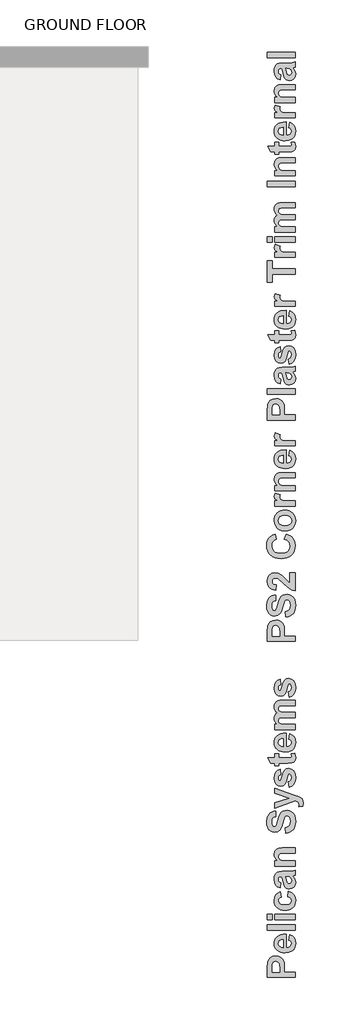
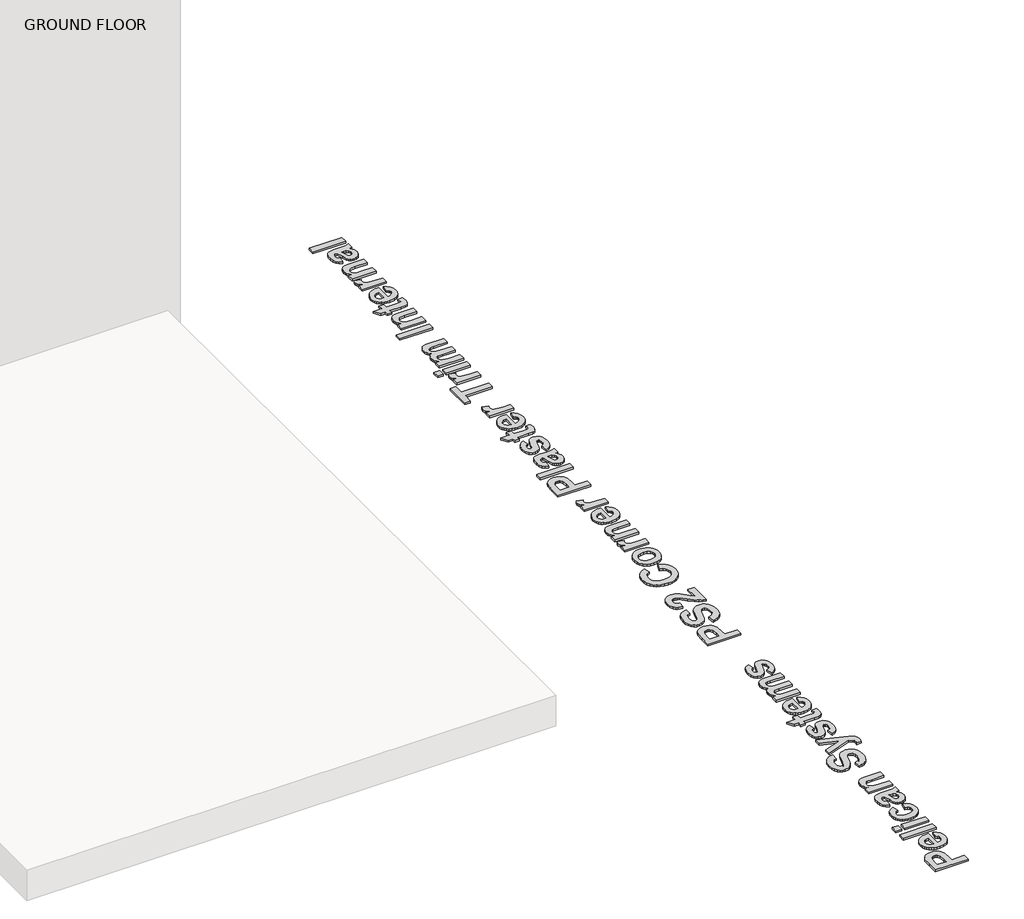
# One storey, part 2 of 3: 1 proxy.
"""IFC4 building model written with IfcOpenShell, lengths in millimetres."""

from ifc_helpers import new_model, si_unit, origin, origin_with_axes, place, context, project, spatial, polyline, outline, extrude, element, save

model = new_model("IFC4")

# Units and contexts
model_context = context("Model", 3, world=origin())
ifc_project = project(units=[si_unit("LENGTHUNIT", "METRE", prefix="MILLI")], contexts=[model_context])

# Site, building, storey
site = spatial("IfcSite", under=ifc_project)
building = spatial("IfcBuilding", under=site)
storey = spatial("IfcBuildingStorey", under=building, Name="GROUND FLOOR", Elevation=0.0)

# Proxy
placement = place(None, origin())
element("IfcBuildingElementProxy", 1, Name="600mm Arial", ObjectType="600mm Arial", at=placement, inside=storey, context=model_context, shape_type="SweptSolid", body=[
    extrude(outline(polyline([(118395.3971369, 46349.49227), (118140.3322869, 46349.49227), (118140.3322869, 46431.6671808), (118144.1278948, 46492.5866874), (118153.1820011, 46512.6322415), (118168.9574964, 46529.1194133), (118190.8692244, 46540.1503987), (118218.332029, 46543.8273938), (118239.8167511, 46541.6686418), (118257.5849406, 46535.1923859), (118271.7868401, 46525.3870655), (118282.5726925, 46513.2411203), (118294.6237475, 46486.1974141), (118298.229575, 46432.1100017), (118298.229575, 46398.076051), (118395.3971369, 46398.076051), (118395.3971369, 46349.49227)]), holes=[polyline([(118184.8674195, 46398.076051), (118253.6944425, 46398.076051), (118253.6944425, 46428.2511337), (118249.8988346, 46471.8057342), (118237.9742998, 46489.0124899), (118229.1890491, 46493.6858321), (118219.0911506, 46495.2436129), (118207.0242805, 46493.0532308), (118197.2664052, 46486.4820847), (118190.2761607, 46476.5739666), (118186.5121829, 46464.3726687), (118184.8674195, 46424.7085663), (118184.8674195, 46398.076051)])]), origin_with_axes(), (0.0, 0.0, 1.0), 15.0),
    extrude(outline(polyline([(118338.7160591, 46689.5787367), (118346.813356, 46738.1625176), (118369.4842056, 46726.332873), (118386.0030074, 46709.1893774), (118396.0850909, 46686.9059961), (118399.4457853, 46659.6566945), (118397.4649525, 46637.65403), (118391.5224539, 46618.7115744), (118381.6182895, 46602.8293277), (118367.7524595, 46590.0072898), (118339.0481748, 46576.627772), (118303.6699463, 46572.1679327), (118281.8293859, 46573.6466383), (118262.4876008, 46578.082755), (118245.6445908, 46585.4762829), (118231.300356, 46595.8272219), (118219.8423646, 46608.4397106), (118211.6580851, 46622.6178875), (118206.7475174, 46638.3617528), (118205.1106615, 46655.6713062), (118206.7910088, 46674.9063399), (118211.8320505, 46691.9984367), (118220.2337867, 46706.9475965), (118231.9962174, 46719.7538194), (118247.2300478, 46729.9584693), (118266.0459831, 46737.1029104), (118288.4440234, 46741.1871427), (118314.4241687, 46742.211166), (118314.4241687, 46620.7517137), (118334.8888212, 46623.8672751), (118350.2294031, 46632.2017975), (118359.813313, 46644.490078), (118363.0079496, 46659.4669141), (118361.5687816, 46669.6676103), (118357.2512777, 46678.1286529), (118349.7391371, 46684.7867817), (118338.7160591, 46689.5787367)]), holes=[polyline([(118286.0836298, 46693.6273851), (118266.8762724, 46690.6699739), (118252.9036908, 46682.8099026), (118244.3872956, 46671.3914489), (118241.5484972, 46657.7588906), (118244.5375385, 46643.3672107), (118253.5046621, 46631.6957164), (118267.6591165, 46624.0412405), (118286.0836298, 46621.5740954), (118286.0836298, 46693.6273851)])]), origin_with_axes(), (0.0, 0.0, 1.0), 15.0),
    extrude(outline(polyline([(118395.3971369, 46778.6490018), (118140.3322869, 46778.6490018), (118140.3322869, 46827.2327827), (118395.3971369, 46827.2327827), (118395.3971369, 46778.6490018)])), origin_with_axes(), (0.0, 0.0, 1.0), 15.0),
    extrude(outline(polyline([(118184.8674195, 46875.8165637), (118140.3322869, 46875.8165637), (118140.3322869, 46924.4003446), (118184.8674195, 46924.4003446), (118184.8674195, 46875.8165637)])), origin_with_axes(), (0.0, 0.0, 1.0), 15.0),
    extrude(outline(polyline([(118395.3971369, 46875.8165637), (118209.1593099, 46875.8165637), (118209.1593099, 46924.4003446), (118395.3971369, 46924.4003446), (118395.3971369, 46875.8165637)])), origin_with_axes(), (0.0, 0.0, 1.0), 15.0),
    extrude(outline(polyline([(118261.7917393, 47126.8327652), (118269.8890361, 47078.2489843), (118257.529588, 47074.524544), (118248.665262, 47067.9059528), (118243.3276884, 47058.630436), (118241.5484972, 47046.9352192), (118244.8854692, 47031.5313772), (118254.896385, 47019.6068424), (118272.719927, 47011.9681816), (118299.4947777, 47009.4219613), (118329.1795943, 47012.0709793), (118348.6478998, 47020.0180333), (118359.4179372, 47032.4249266), (118363.0079496, 47048.4534624), (118360.9599029, 47060.5915001), (118354.8157626, 47070.3098378), (118343.6582569, 47077.5610304), (118326.5701139, 47082.2976327), (118334.6674107, 47130.8814136), (118362.8102617, 47120.245804), (118383.0930414, 47102.8888055), (118395.3575993, 47078.6522676), (118399.4457853, 47047.3780401), (118397.8366057, 47028.6115268), (118393.009067, 47011.8495688), (118384.963169, 46997.0921663), (118373.6989118, 46984.3393191), (118359.5919025, 46974.0575709), (118343.0177481, 46966.713465), (118323.9764485, 46962.3070015), (118302.4680038, 46960.8381803), (118280.716403, 46962.2971171), (118261.5149762, 46966.6739274), (118244.8637235, 46973.9686114), (118230.7626448, 46984.1811688), (118219.5399021, 46996.884594), (118211.5236574, 47011.6518809), (118206.7139105, 47028.4830296), (118205.1106615, 47047.3780401), (118208.6136913, 47076.6200359), (118219.1227806, 47099.1880878), (118236.7960799, 47115.7147971), (118261.7917393, 47126.8327652)])), origin_with_axes(), (0.0, 0.0, 1.0), 15.0),
    extrude(outline(polyline([(118265.8403877, 47207.8057335), (118257.7430909, 47163.2706009), (118234.4001024, 47172.9256785), (118218.0157283, 47187.7206417), (118208.3369282, 47209.2844391), (118205.1106615, 47239.2460188), (118207.0638181, 47266.3371701), (118212.9232878, 47285.4891749), (118221.7797062, 47298.4258718), (118232.7237089, 47306.8710993), (118249.7327768, 47311.520719), (118276.7843905, 47313.0705922), (118334.2245898, 47313.0705922), (118370.409385, 47315.6326275), (118395.3971369, 47325.2165374), (118395.3971369, 47276.6327565), (118379.9616648, 47272.078027), (118373.8254321, 47270.3700035), (118393.024882, 47244.3700895), (118397.8405595, 47230.0574847), (118399.4457853, 47214.8276081), (118395.5473797, 47190.0533591), (118383.8521629, 47171.1464873), (118366.2104938, 47159.1665999), (118344.4727311, 47155.1733041), (118329.5749702, 47156.9524953), (118316.3852327, 47162.2900689), (118305.4886751, 47170.8380942), (118297.4704534, 47182.2486404), (118286.0203697, 47219.2558173), (118273.9376845, 47264.4868113), (118268.8136139, 47264.4868113), (118256.1932177, 47262.9764756), (118247.8112503, 47258.4454687), (118243.1141855, 47249.7392931), (118241.5484972, 47235.7034514), (118242.892775, 47225.6292755), (118246.9256084, 47218.0538748), (118265.8403877, 47207.8057335)]), holes=[polyline([(118310.3755203, 47264.4868113), (118317.1127243, 47237.0951743), (118324.7988302, 47212.5502433), (118331.7099996, 47205.9553746), (118340.2975624, 47203.7570851), (118348.9088478, 47205.5204612), (118356.2707456, 47210.8105897), (118361.3236486, 47218.8209039), (118363.0079496, 47228.744837), (118361.0468855, 47240.6535567), (118355.1636933, 47251.9613052), (118340.6138631, 47262.7155276), (118319.1686785, 47264.4868113), (118310.3755203, 47264.4868113)])]), origin_with_axes(), (0.0, 0.0, 1.0), 15.0),
    extrude(outline(polyline([(118395.3971369, 47527.6489581), (118395.3971369, 47479.0651771), (118299.684558, 47479.0651771), (118260.3367563, 47476.0286908), (118246.4827875, 47466.0968502), (118241.5484972, 47449.5859559), (118243.3118734, 47437.8274789), (118248.6020019, 47427.3500197), (118256.810004, 47419.0629424), (118267.3270008, 47413.8756117), (118310.4387804, 47410.2381541), (118395.3971369, 47410.2381541), (118395.3971369, 47361.6543732), (118209.1593099, 47361.6543732), (118209.1593099, 47410.2381541), (118235.9816057, 47410.2381541), (118222.4755676, 47422.5303884), (118212.8283976, 47436.3171433), (118207.0400955, 47451.5984188), (118205.1106615, 47468.3742149), (118210.9938538, 47496.5882335), (118225.9865049, 47515.9458338), (118246.6409378, 47525.0869227), (118279.7576166, 47527.6489581), (118395.3971369, 47527.6489581)])), origin_with_axes(), (0.0, 0.0, 1.0), 15.0),
    extrude(outline(polyline([(118310.3755203, 47661.2543557), (118306.3268718, 47709.8381366), (118328.056727, 47716.9232714), (118343.1442683, 47728.8161761), (118351.9690567, 47745.5959259), (118354.9106528, 47767.3415961), (118352.3090799, 47789.909648), (118344.5043612, 47806.1200567), (118333.2203352, 47815.893747), (118320.1808406, 47819.1516438), (118304.966779, 47813.7429025), (118294.0544063, 47794.7964932), (118283.2369239, 47752.6652456), (118272.0556956, 47716.7018609), (118258.3756922, 47693.3272423), (118235.0801488, 47675.34555), (118207.1982459, 47669.3516525), (118188.4099868, 47672.1034682), (118170.8869304, 47680.3589154), (118156.0049845, 47693.8016933), (118145.1400569, 47712.1155014), (118138.4977431, 47734.9998539), (118136.2836385, 47762.1542653), (118141.803085, 47804.119455), (118148.7023931, 47820.6600025), (118158.3614244, 47834.2391851), (118170.321543, 47844.9004942), (118184.1241129, 47852.687421), (118199.7691342, 47857.5999655), (118217.2566068, 47859.6381279), (118217.2566068, 47811.0543469), (118200.5638396, 47805.6851433), (118189.3272587, 47796.4096265), (118182.945893, 47782.3737849), (118180.8187711, 47762.7236065), (118183.0803208, 47742.0375435), (118189.8649699, 47726.4122911), (118196.665434, 47720.0546479), (118205.4269622, 47717.9354335), (118213.6982244, 47719.8648675), (118220.6726539, 47725.6531695), (118228.8411183, 47742.4566419), (118237.2784384, 47773.2564184), (118246.0557816, 47806.1279642), (118255.2443157, 47829.1467445), (118266.3701913, 47845.2780781), (118280.9595591, 47857.4872834), (118299.194292, 47865.1733894), (118321.2562629, 47867.7354247), (118342.3218866, 47864.7068459), (118361.9957875, 47855.6211096), (118378.5383119, 47840.9922042), (118390.2098061, 47821.3341183), (118397.1367905, 47796.4333491), (118399.4457853, 47766.0763935), (118398.0244093, 47743.3739138), (118393.760281, 47723.470695), (118386.6534006, 47706.3667369), (118376.7037681, 47692.0620397), (118364.0299961, 47680.4577593), (118348.7506975, 47671.4550519), (118330.8658722, 47665.0539173), (118310.3755203, 47661.2543557)])), origin_with_axes(), (0.0, 0.0, 1.0), 15.0),
    extrude(outline(polyline([(118209.1593099, 47887.9786668), (118209.1593099, 47936.5624477), (118340.9934239, 47979.0732561), (118209.1593099, 48021.5840644), (118209.1593099, 48070.1678454), (118387.6161408, 48007.1607544), (118420.7644496, 47995.4576301), (118444.3604787, 47983.9126561), (118457.5818461, 47971.2922599), (118465.4577325, 47953.7375734), (118468.2728083, 47930.2364346), (118465.4893626, 47904.1732604), (118429.4943478, 47900.124612), (118431.8349726, 47919.4189521), (118429.2650298, 47933.1859382), (118421.5552013, 47942.8568308), (118395.3971369, 47954.5283251), (118209.1593099, 47887.9786668)])), origin_with_axes(), (0.0, 0.0, 1.0), 15.0),
    extrude(outline(polyline([(118342.7647076, 48078.2651422), (118334.6674107, 48126.8489231), (118346.9082462, 48131.4748202), (118355.7962946, 48139.279539), (118361.2050359, 48150.5319348), (118363.0079496, 48165.5008634), (118361.284111, 48181.7429022), (118356.1125953, 48193.3985814), (118350.4824436, 48198.1430913), (118343.2075285, 48199.7245946), (118334.0980696, 48196.3718076), (118327.7087963, 48180.4935146), (118315.2781804, 48133.5703121), (118303.9229869, 48107.6811033), (118285.9412945, 48091.6921051), (118262.10804, 48086.362439), (118239.9195489, 48090.9329835), (118221.5582957, 48104.644617), (118209.2225701, 48127.9717905), (118205.1106615, 48161.3889549), (118208.4318184, 48193.2562461), (118218.3952891, 48215.7294078), (118234.8745534, 48230.737874), (118257.7430909, 48240.2110787), (118265.8403877, 48191.6272977), (118255.4499111, 48188.0531003), (118247.8112503, 48182.2647983), (118243.1141855, 48173.9144609), (118241.5484972, 48162.6541575), (118242.87696, 48148.8160038), (118246.8623483, 48139.5642095), (118256.7309288, 48134.94622), (118265.5240871, 48139.5642095), (118279.1250153, 48182.5494689), (118288.9461507, 48213.7762512), (118300.8232404, 48233.8850655), (118316.495938, 48244.702548), (118337.3243363, 48248.3083755), (118361.023163, 48243.0815071), (118381.1319773, 48227.4009021), (118389.1442683, 48215.6918471), (118394.8673333, 48201.4721557), (118399.4457853, 48165.5008634), (118395.6343624, 48132.1864967), (118384.2000937, 48106.6373111), (118366.2184013, 48088.7109714), (118342.7647076, 48078.2651422)])), origin_with_axes(), (0.0, 0.0, 1.0), 15.0),
    extrude(outline(polyline([(118209.1593099, 48381.9137731), (118245.5971457, 48381.9137731), (118245.5971457, 48345.4759374), (118325.4946917, 48345.4759374), (118353.7403404, 48346.5829897), (118360.3826542, 48351.6121702), (118363.0079496, 48361.16445), (118358.3266999, 48383.9380973), (118392.8667317, 48385.9624215), (118397.8010219, 48367.2216076), (118399.4457853, 48346.1717988), (118394.8910559, 48321.6268678), (118383.1246714, 48305.5904245), (118363.5772908, 48298.4736597), (118328.2148773, 48296.8921565), (118245.5971457, 48296.8921565), (118245.5971457, 48272.600266), (118209.1593099, 48272.600266), (118209.1593099, 48296.8921565), (118172.7214742, 48296.8921565), (118144.3809353, 48345.4759374), (118209.1593099, 48345.4759374), (118209.1593099, 48381.9137731)])), origin_with_axes(), (0.0, 0.0, 1.0), 15.0),
    extrude(outline(polyline([(118338.7160591, 48515.5191707), (118346.813356, 48564.1029517), (118369.4842056, 48552.2733071), (118386.0030074, 48535.1298115), (118396.0850909, 48512.8464302), (118399.4457853, 48485.5971286), (118397.4649525, 48463.5944641), (118391.5224539, 48444.6520085), (118381.6182895, 48428.7697617), (118367.7524595, 48415.9477238), (118339.0481748, 48402.568206), (118303.6699463, 48398.1083668), (118281.8293859, 48399.5870723), (118262.4876008, 48404.0231891), (118245.6445908, 48411.4167169), (118231.300356, 48421.7676559), (118219.8423646, 48434.3801446), (118211.6580851, 48448.5583216), (118206.7475174, 48464.3021868), (118205.1106615, 48481.6117403), (118206.7910088, 48500.846774), (118211.8320505, 48517.9388708), (118220.2337867, 48532.8880306), (118231.9962174, 48545.6942534), (118247.2300478, 48555.8989034), (118266.0459831, 48563.0433445), (118288.4440234, 48567.1275767), (118314.4241687, 48568.1516001), (118314.4241687, 48446.6921477), (118334.8888212, 48449.8077092), (118350.2294031, 48458.1422315), (118359.813313, 48470.430512), (118363.0079496, 48485.4073482), (118361.5687816, 48495.6080444), (118357.2512777, 48504.0690869), (118349.7391371, 48510.7272158), (118338.7160591, 48515.5191707)]), holes=[polyline([(118286.0836298, 48519.5678191), (118266.8762724, 48516.610408), (118252.9036908, 48508.7503367), (118244.3872956, 48497.3318829), (118241.5484972, 48483.6993246), (118244.5375385, 48469.3076447), (118253.5046621, 48457.6361505), (118267.6591165, 48449.9816746), (118286.0836298, 48447.5145294), (118286.0836298, 48519.5678191)])]), origin_with_axes(), (0.0, 0.0, 1.0), 15.0),
    extrude(outline(polyline([(118209.1593099, 48600.5407874), (118209.1593099, 48649.1245683), (118234.0838017, 48649.1245683), (118221.4080529, 48661.0846869), (118212.3539466, 48674.1281353), (118206.9214828, 48688.2549134), (118205.1106615, 48703.4650213), (118206.8898527, 48719.1139963), (118212.2274263, 48732.5330517), (118221.1708274, 48743.7380024), (118233.7675011, 48752.7446636), (118221.1708274, 48765.183187), (118212.2274263, 48778.5864273), (118206.8898527, 48792.9385697), (118205.1106615, 48808.2237989), (118207.1903384, 48826.6799423), (118213.4293688, 48842.0679693), (118223.7012327, 48854.1822844), (118237.8794096, 48862.8172924), (118253.457217, 48866.5180101), (118276.4048297, 48867.7515826), (118395.3971369, 48867.7515826), (118395.3971369, 48819.1678017), (118288.1712141, 48819.1678017), (118265.2236014, 48817.9342291), (118252.1761993, 48814.2335114), (118244.2054228, 48805.851544), (118241.5484972, 48793.8637491), (118243.137908, 48784.1612264), (118247.9061405, 48775.04386), (118255.7424892, 48767.4526442), (118266.5362492, 48762.3285736), (118305.3147097, 48758.4380755), (118395.3971369, 48758.4380755), (118395.3971369, 48709.8542945), (118292.5994233, 48709.8542945), (118257.2686399, 48707.3238893), (118245.4389953, 48699.511263), (118241.5484972, 48685.1195831), (118243.090463, 48674.7291065), (118247.7163601, 48665.4456823), (118255.2601307, 48657.9493567), (118265.5557171, 48652.9201762), (118304.2392875, 48649.1245683), (118395.3971369, 48649.1245683), (118395.3971369, 48600.5407874), (118209.1593099, 48600.5407874)])), origin_with_axes(), (0.0, 0.0, 1.0), 15.0),
    extrude(outline(polyline([(118342.7647076, 48896.0921215), (118334.6674107, 48944.6759025), (118346.9082462, 48949.3017996), (118355.7962946, 48957.1065183), (118361.2050359, 48968.3589142), (118363.0079496, 48983.3278428), (118361.284111, 48999.5698815), (118356.1125953, 49011.2255607), (118350.4824436, 49015.9700706), (118343.2075285, 49017.5515739), (118334.0980696, 49014.1987869), (118327.7087963, 48998.3204939), (118315.2781804, 48951.3972914), (118303.9229869, 48925.5080826), (118285.9412945, 48909.5190844), (118262.10804, 48904.1894183), (118239.9195489, 48908.7599628), (118221.5582957, 48922.4715963), (118209.2225701, 48945.7987698), (118205.1106615, 48979.2159342), (118208.4318184, 49011.0832254), (118218.3952891, 49033.5563871), (118234.8745534, 49048.5648533), (118257.7430909, 49058.038058), (118265.8403877, 49009.4542771), (118255.4499111, 49005.8800796), (118247.8112503, 49000.0917776), (118243.1141855, 48991.7414403), (118241.5484972, 48980.4811369), (118242.87696, 48966.6429831), (118246.8623483, 48957.3911889), (118256.7309288, 48952.7731993), (118265.5240871, 48957.3911889), (118279.1250153, 49000.3764482), (118288.9461507, 49031.6032306), (118300.8232404, 49051.7120449), (118316.495938, 49062.5295273), (118337.3243363, 49066.1353548), (118361.023163, 49060.9084865), (118381.1319773, 49045.2278814), (118389.1442683, 49033.5188264), (118394.8673333, 49019.299135), (118399.4457853, 48983.3278428), (118395.6343624, 48950.013476), (118384.2000937, 48924.4642905), (118366.2184013, 48906.5379507), (118342.7647076, 48896.0921215)])), origin_with_axes(), (0.0, 0.0, 1.0), 15.0),
    extrude(outline(polyline([(118395.3971369, 49402.1731731), (118140.3322869, 49402.1731731), (118140.3322869, 49484.3480838), (118144.1278948, 49545.2675904), (118153.1820011, 49565.3131446), (118168.9574964, 49581.8003163), (118190.8692244, 49592.8313017), (118218.332029, 49596.5082969), (118239.8167511, 49594.3495449), (118257.5849406, 49587.8732889), (118271.7868401, 49578.0679686), (118282.5726925, 49565.9220233), (118294.6237475, 49538.8783171), (118298.229575, 49484.7909047), (118298.229575, 49450.756954), (118395.3971369, 49450.756954), (118395.3971369, 49402.1731731)]), holes=[polyline([(118184.8674195, 49450.756954), (118253.6944425, 49450.756954), (118253.6944425, 49480.9320367), (118249.8988346, 49524.4866372), (118237.9742998, 49541.693393), (118229.1890491, 49546.3667352), (118219.0911506, 49547.9245159), (118207.0242805, 49545.7341339), (118197.2664052, 49539.1629877), (118190.2761607, 49529.2548696), (118186.5121829, 49517.0535718), (118184.8674195, 49477.3894694), (118184.8674195, 49450.756954)])]), origin_with_axes(), (0.0, 0.0, 1.0), 15.0),
    extrude(outline(polyline([(118310.3755203, 49624.8488358), (118306.3268718, 49673.4326167), (118328.056727, 49680.5177514), (118343.1442683, 49692.4106561), (118351.9690567, 49709.190406), (118354.9106528, 49730.9360762), (118352.3090799, 49753.5041281), (118344.5043612, 49769.7145368), (118333.2203352, 49779.4882271), (118320.1808406, 49782.7461238), (118304.966779, 49777.3373826), (118294.0544063, 49758.3909732), (118283.2369239, 49716.2597257), (118272.0556956, 49680.296341), (118258.3756922, 49656.9217224), (118235.0801488, 49638.94003), (118207.1982459, 49632.9461326), (118188.4099868, 49635.6979483), (118170.8869304, 49643.9533955), (118156.0049845, 49657.3961734), (118145.1400569, 49675.7099814), (118138.4977431, 49698.594334), (118136.2836385, 49725.7487454), (118141.803085, 49767.7139351), (118148.7023931, 49784.2544826), (118158.3614244, 49797.8336652), (118170.321543, 49808.4949742), (118184.1241129, 49816.281901), (118199.7691342, 49821.1944456), (118217.2566068, 49823.232608), (118217.2566068, 49774.648827), (118200.5638396, 49769.2796234), (118189.3272587, 49760.0041066), (118182.945893, 49745.9682649), (118180.8187711, 49726.3180866), (118183.0803208, 49705.6320236), (118189.8649699, 49690.0067711), (118196.665434, 49683.6491279), (118205.4269622, 49681.5299135), (118213.6982244, 49683.4593475), (118220.6726539, 49689.2476496), (118228.8411183, 49706.051122), (118237.2784384, 49736.8508985), (118246.0557816, 49769.7224443), (118255.2443157, 49792.7412246), (118266.3701913, 49808.8725581), (118280.9595591, 49821.0817635), (118299.194292, 49828.7678695), (118321.2562629, 49831.3299048), (118342.3218866, 49828.301326), (118361.9957875, 49819.2155896), (118378.5383119, 49804.5866842), (118390.2098061, 49784.9285984), (118397.1367905, 49760.0278291), (118399.4457853, 49729.6708736), (118398.0244093, 49706.9683939), (118393.760281, 49687.065175), (118386.6534006, 49669.961217), (118376.7037681, 49655.6565198), (118364.0299961, 49644.0522394), (118348.7506975, 49635.049532), (118330.8658722, 49628.6483974), (118310.3755203, 49624.8488358)])), origin_with_axes(), (0.0, 0.0, 1.0), 15.0),
    extrude(outline(polyline([(118346.813356, 50025.6650286), (118395.3971369, 50025.6650286), (118395.3971369, 49863.7190921), (118370.8917435, 49868.8906078), (118347.7306279, 49879.2178243), (118321.548841, 49898.4014592), (118287.9814337, 49930.1422301), (118247.2419091, 49967.7187482), (118232.5339285, 49974.7406228), (118218.0157283, 49977.0812477), (118203.8691815, 49975.1122761), (118193.4391673, 49969.2053613), (118187.0103564, 49959.8349543), (118184.8674195, 49947.4755061), (118186.9787264, 49935.2030406), (118193.312647, 49925.7140209), (118204.5334128, 49919.3247476), (118221.3052552, 49916.3515215), (118216.877046, 49867.7677405), (118181.7281354, 49876.3711184), (118168.4889761, 49883.9939642), (118158.1400139, 49893.8309147), (118144.7842187, 49918.4549208), (118140.3322869, 49948.5509284), (118145.3219298, 49980.6870751), (118160.2908584, 50005.1054859), (118182.6770374, 50020.5251429), (118209.9184315, 50025.6650286), (118242.0545783, 50020.0348769), (118274.0009447, 50002.1955198), (118305.8840509, 49971.9888071), (118333.5287284, 49944.2492394), (118346.813356, 49935.1397805), (118346.813356, 50025.6650286)])), origin_with_axes(), (0.0, 0.0, 1.0), 15.0),
    extrude(outline(polyline([(118298.229575, 50329.3136595), (118314.4241687, 50377.8974405), (118350.2056805, 50362.5726736), (118364.1407014, 50352.051723), (118375.4385655, 50339.625061), (118390.4074941, 50309.2601979), (118395.3971369, 50271.6836798), (118393.2660612, 50247.3562055), (118386.8728342, 50225.2981884), (118376.2174558, 50205.5096285), (118361.2999261, 50187.9905259), (118342.6856324, 50173.6541986), (118320.9399622, 50163.4139648), (118296.0629155, 50157.2698246), (118268.0544923, 50155.2217778), (118238.5199185, 50157.2876165), (118212.4804668, 50163.4851325), (118189.9361375, 50173.8143258), (118170.8869304, 50188.2751965), (118155.7479902, 50206.1046692), (118144.9344615, 50226.5396685), (118138.4463443, 50249.5801945), (118136.2836385, 50275.2262472), (118138.0667835, 50297.6519638), (118143.4162183, 50317.8635757), (118152.3319431, 50335.8610831), (118164.8139578, 50351.6444859), (118185.3260554, 50366.9692528), (118213.2079584, 50377.8974405), (118221.3052552, 50329.3136595), (118204.5017828, 50321.8726866), (118191.6678836, 50309.1653077), (118183.5310492, 50292.1720549), (118180.8187711, 50271.8734602), (118185.7451538, 50244.4264707), (118200.524302, 50222.688708), (118211.9012413, 50214.4273302), (118226.3265281, 50208.5263461), (118264.3221446, 50203.8055588), (118304.3974378, 50208.3840108), (118319.3821815, 50214.1070758), (118330.9983231, 50222.1193668), (118345.8960841, 50243.1928981), (118350.8620044, 50269.7858759), (118347.6910903, 50289.8630601), (118338.178348, 50306.9512031), (118321.8493266, 50320.3386284), (118298.229575, 50329.3136595)])), origin_with_axes(), (0.0, 0.0, 1.0), 15.0),
    extrude(outline(polyline([(118299.6212979, 50406.2379794), (118275.5270953, 50409.2349281), (118252.2078294, 50418.2257743), (118231.9883099, 50432.7044369), (118217.1933466, 50452.1648348), (118208.1313328, 50475.3971181), (118205.1106615, 50501.1914367), (118206.8226388, 50521.1836151), (118211.9585708, 50539.2819433), (118220.5184573, 50555.4864214), (118232.5022984, 50569.7970492), (118247.1035275, 50581.4902892), (118263.5155779, 50589.8426034), (118281.7384495, 50594.8539919), (118301.7721424, 50596.5244548), (118321.9659625, 50594.8362), (118340.352915, 50589.7714357), (118356.9330001, 50581.3301619), (118371.7062177, 50569.5123786), (118383.8422785, 50555.1365138), (118392.5108934, 50539.0209953), (118397.7120624, 50521.1658232), (118399.4457853, 50501.5709975), (118396.5595418, 50476.7967485), (118387.9008113, 50453.208627), (118373.6593743, 50432.9653849), (118354.025011, 50418.2257743), (118329.2586695, 50409.2349281), (118299.6212979, 50406.2379794)]), holes=[polyline([(118302.2782234, 50454.8217603), (118328.2544149, 50458.1824548), (118347.3510671, 50468.2645383), (118359.093729, 50483.280912), (118363.0079496, 50501.4444772), (118359.093729, 50519.5922274), (118347.3510671, 50534.561156), (118328.1595247, 50544.5957944), (118301.8986626, 50547.9406738), (118276.2071418, 50544.5957944), (118257.2053798, 50534.561156), (118245.4627179, 50519.5922274), (118241.5484972, 50501.4444772), (118245.4627179, 50483.280912), (118257.2053798, 50468.2645383), (118276.302032, 50458.1824548), (118302.2782234, 50454.8217603)])]), origin_with_axes(), (0.0, 0.0, 1.0), 15.0),
    extrude(outline(polyline([(118395.3971369, 50681.5460714), (118395.3971369, 50632.9622905), (118209.1593099, 50632.9622905), (118209.1593099, 50681.5460714), (118235.0959638, 50681.5460714), (118210.8989636, 50700.9669318), (118205.1106615, 50720.5775725), (118207.6726969, 50735.744189), (118215.3588028, 50750.3730944), (118261.6019589, 50736.202825), (118255.6713216, 50724.4997007), (118253.6944425, 50713.6822182), (118259.229704, 50696.5703526), (118266.9869776, 50690.3234147), (118279.1882755, 50685.5630898), (118339.6649611, 50681.5460714), (118395.3971369, 50681.5460714)])), origin_with_axes(), (0.0, 0.0, 1.0), 15.0),
    extrude(outline(polyline([(118395.3971369, 50936.6109214), (118395.3971369, 50888.0271405), (118299.684558, 50888.0271405), (118260.3367563, 50884.9906542), (118246.4827875, 50875.0588135), (118241.5484972, 50858.5479192), (118243.3118734, 50846.7894423), (118248.6020019, 50836.311983), (118256.810004, 50828.0249058), (118267.3270008, 50822.837575), (118310.4387804, 50819.2001175), (118395.3971369, 50819.2001175), (118395.3971369, 50770.6163365), (118209.1593099, 50770.6163365), (118209.1593099, 50819.2001175), (118235.9816057, 50819.2001175), (118222.4755676, 50831.4923517), (118212.8283976, 50845.2791066), (118207.0400955, 50860.5603821), (118205.1106615, 50877.3361783), (118210.9938538, 50905.5501969), (118225.9865049, 50924.9077971), (118246.6409378, 50934.0488861), (118279.7576166, 50936.6109214), (118395.3971369, 50936.6109214)])), origin_with_axes(), (0.0, 0.0, 1.0), 15.0),
    extrude(outline(polyline([(118338.7160591, 51090.4595611), (118346.813356, 51139.043342), (118369.4842056, 51127.2136975), (118386.0030074, 51110.0702018), (118396.0850909, 51087.7868205), (118399.4457853, 51060.5375189), (118397.4649525, 51038.5348545), (118391.5224539, 51019.5923988), (118381.6182895, 51003.7101521), (118367.7524595, 50990.8881142), (118339.0481748, 50977.5085964), (118303.6699463, 50973.0487571), (118281.8293859, 50974.5274627), (118262.4876008, 50978.9635794), (118245.6445908, 50986.3571073), (118231.300356, 50996.7080463), (118219.8423646, 51009.320535), (118211.6580851, 51023.498712), (118206.7475174, 51039.2425772), (118205.1106615, 51056.5521306), (118206.7910088, 51075.7871644), (118211.8320505, 51092.8792611), (118220.2337867, 51107.8284209), (118231.9962174, 51120.6346438), (118247.2300478, 51130.8392937), (118266.0459831, 51137.9837348), (118288.4440234, 51142.0679671), (118314.4241687, 51143.0919905), (118314.4241687, 51021.6325381), (118334.8888212, 51024.7480996), (118350.2294031, 51033.0826219), (118359.813313, 51045.3709024), (118363.0079496, 51060.3477385), (118361.5687816, 51070.5484347), (118357.2512777, 51079.0094773), (118349.7391371, 51085.6676061), (118338.7160591, 51090.4595611)]), holes=[polyline([(118286.0836298, 51094.5082095), (118266.8762724, 51091.5507984), (118252.9036908, 51083.690727), (118244.3872956, 51072.2722733), (118241.5484972, 51058.639715), (118244.5375385, 51044.2480351), (118253.5046621, 51032.5765408), (118267.6591165, 51024.9220649), (118286.0836298, 51022.4549198), (118286.0836298, 51094.5082095)])]), origin_with_axes(), (0.0, 0.0, 1.0), 15.0),
    extrude(outline(polyline([(118395.3971369, 51228.1136071), (118395.3971369, 51179.5298262), (118209.1593099, 51179.5298262), (118209.1593099, 51228.1136071), (118235.0959638, 51228.1136071), (118210.8989636, 51247.5344675), (118205.1106615, 51267.1451082), (118207.6726969, 51282.3117247), (118215.3588028, 51296.9406301), (118261.6019589, 51282.7703607), (118255.6713216, 51271.0672364), (118253.6944425, 51260.2497539), (118259.229704, 51243.1378883), (118266.9869776, 51236.8909504), (118279.1882755, 51232.1306255), (118339.6649611, 51228.1136071), (118395.3971369, 51228.1136071)])), origin_with_axes(), (0.0, 0.0, 1.0), 15.0),
    extrude(outline(polyline([(118395.3971369, 51414.3514341), (118140.3322869, 51414.3514341), (118140.3322869, 51496.5263448), (118144.1278948, 51557.4458514), (118153.1820011, 51577.4914056), (118168.9574964, 51593.9785773), (118190.8692244, 51605.0095628), (118218.332029, 51608.6865579), (118239.8167511, 51606.5278059), (118257.5849406, 51600.05155), (118271.7868401, 51590.2462296), (118282.5726925, 51578.1002843), (118294.6237475, 51551.0565782), (118298.229575, 51496.9691658), (118298.229575, 51462.935215), (118395.3971369, 51462.935215), (118395.3971369, 51414.3514341)]), holes=[polyline([(118184.8674195, 51462.935215), (118253.6944425, 51462.935215), (118253.6944425, 51493.1102977), (118249.8988346, 51536.6648982), (118237.9742998, 51553.871654), (118229.1890491, 51558.5449962), (118219.0911506, 51560.1027769), (118207.0242805, 51557.9123949), (118197.2664052, 51551.3412487), (118190.2761607, 51541.4331307), (118186.5121829, 51529.2318328), (118184.8674195, 51489.5677304), (118184.8674195, 51462.935215)])]), origin_with_axes(), (0.0, 0.0, 1.0), 15.0),
    extrude(outline(polyline([(118395.3971369, 51649.173042), (118140.3322869, 51649.173042), (118140.3322869, 51697.756823), (118395.3971369, 51697.756823), (118395.3971369, 51649.173042)])), origin_with_axes(), (0.0, 0.0, 1.0), 15.0),
    extrude(outline(polyline([(118265.8403877, 51786.8270881), (118257.7430909, 51742.2919555), (118234.4001024, 51751.9470331), (118218.0157283, 51766.7419963), (118208.3369282, 51788.3057936), (118205.1106615, 51818.2673734), (118207.0638181, 51845.3585247), (118212.9232878, 51864.5105295), (118221.7797062, 51877.4472263), (118232.7237089, 51885.8924539), (118249.7327768, 51890.5420736), (118276.7843905, 51892.0919468), (118334.2245898, 51892.0919468), (118370.409385, 51894.6539821), (118395.3971369, 51904.237892), (118395.3971369, 51855.6541111), (118379.9616648, 51851.0993816), (118373.8254321, 51849.3913581), (118393.024882, 51823.391444), (118397.8405595, 51809.0788393), (118399.4457853, 51793.8489626), (118395.5473797, 51769.0747137), (118383.8521629, 51750.1678419), (118366.2104938, 51738.1879545), (118344.4727311, 51734.1946587), (118329.5749702, 51735.9738499), (118316.3852327, 51741.3114235), (118305.4886751, 51749.8594487), (118297.4704534, 51761.2699949), (118286.0203697, 51798.2771718), (118273.9376845, 51843.5081658), (118268.8136139, 51843.5081658), (118256.1932177, 51841.9978302), (118247.8112503, 51837.4668233), (118243.1141855, 51828.7606477), (118241.5484972, 51814.724806), (118242.892775, 51804.6506301), (118246.9256084, 51797.0752293), (118265.8403877, 51786.8270881)]), holes=[polyline([(118310.3755203, 51843.5081658), (118317.1127243, 51816.1165289), (118324.7988302, 51791.5715979), (118331.7099996, 51784.9767292), (118340.2975624, 51782.7784396), (118348.9088478, 51784.5418158), (118356.2707456, 51789.8319443), (118361.3236486, 51797.8422584), (118363.0079496, 51807.7661916), (118361.0468855, 51819.6749113), (118355.1636933, 51830.9826598), (118340.6138631, 51841.7368821), (118319.1686785, 51843.5081658), (118310.3755203, 51843.5081658)])]), origin_with_axes(), (0.0, 0.0, 1.0), 15.0),
    extrude(outline(polyline([(118342.7647076, 51920.4324857), (118334.6674107, 51969.0162666), (118346.9082462, 51973.6421637), (118355.7962946, 51981.4468824), (118361.2050359, 51992.6992783), (118363.0079496, 52007.6682069), (118361.284111, 52023.9102457), (118356.1125953, 52035.5659249), (118350.4824436, 52040.3104348), (118343.2075285, 52041.891938), (118334.0980696, 52038.5391511), (118327.7087963, 52022.6608581), (118315.2781804, 51975.7376556), (118303.9229869, 51949.8484468), (118285.9412945, 51933.8594486), (118262.10804, 51928.5297825), (118239.9195489, 51933.100327), (118221.5582957, 51946.8119605), (118209.2225701, 51970.1391339), (118205.1106615, 52003.5562984), (118208.4318184, 52035.4235896), (118218.3952891, 52057.8967513), (118234.8745534, 52072.9052175), (118257.7430909, 52082.3784222), (118265.8403877, 52033.7946412), (118255.4499111, 52030.2204438), (118247.8112503, 52024.4321418), (118243.1141855, 52016.0818044), (118241.5484972, 52004.821501), (118242.87696, 51990.9833473), (118246.8623483, 51981.731553), (118256.7309288, 51977.1135634), (118265.5240871, 51981.731553), (118279.1250153, 52024.7168124), (118288.9461507, 52055.9435947), (118300.8232404, 52076.052409), (118316.495938, 52086.8698915), (118337.3243363, 52090.475719), (118361.023163, 52085.2488506), (118381.1319773, 52069.5682455), (118389.1442683, 52057.8591906), (118394.8673333, 52043.6394992), (118399.4457853, 52007.6682069), (118395.6343624, 51974.3538402), (118384.2000937, 51948.8046546), (118366.2184013, 51930.8783149), (118342.7647076, 51920.4324857)])), origin_with_axes(), (0.0, 0.0, 1.0), 15.0),
    extrude(outline(polyline([(118209.1593099, 52224.0811166), (118245.5971457, 52224.0811166), (118245.5971457, 52187.6432809), (118325.4946917, 52187.6432809), (118353.7403404, 52188.7503332), (118360.3826542, 52193.7795136), (118363.0079496, 52203.3317935), (118358.3266999, 52226.1054408), (118392.8667317, 52228.129765), (118397.8010219, 52209.3889511), (118399.4457853, 52188.3391423), (118394.8910559, 52163.7942113), (118383.1246714, 52147.757768), (118363.5772908, 52140.6410032), (118328.2148773, 52139.0594999), (118245.5971457, 52139.0594999), (118245.5971457, 52114.7676095), (118209.1593099, 52114.7676095), (118209.1593099, 52139.0594999), (118172.7214742, 52139.0594999), (118144.3809353, 52187.6432809), (118209.1593099, 52187.6432809), (118209.1593099, 52224.0811166)])), origin_with_axes(), (0.0, 0.0, 1.0), 15.0),
    extrude(outline(polyline([(118338.7160591, 52357.6865142), (118346.813356, 52406.2702952), (118369.4842056, 52394.4406506), (118386.0030074, 52377.297155), (118396.0850909, 52355.0137737), (118399.4457853, 52327.764472), (118397.4649525, 52305.7618076), (118391.5224539, 52286.819352), (118381.6182895, 52270.9371052), (118367.7524595, 52258.1150673), (118339.0481748, 52244.7355495), (118303.6699463, 52240.2757103), (118281.8293859, 52241.7544158), (118262.4876008, 52246.1905325), (118245.6445908, 52253.5840604), (118231.300356, 52263.9349994), (118219.8423646, 52276.5474881), (118211.6580851, 52290.7256651), (118206.7475174, 52306.4695303), (118205.1106615, 52323.7790838), (118206.7910088, 52343.0141175), (118211.8320505, 52360.1062142), (118220.2337867, 52375.0553741), (118231.9962174, 52387.8615969), (118247.2300478, 52398.0662469), (118266.0459831, 52405.210688), (118288.4440234, 52409.2949202), (118314.4241687, 52410.3189436), (118314.4241687, 52288.8594912), (118334.8888212, 52291.9750527), (118350.2294031, 52300.309575), (118359.813313, 52312.5978555), (118363.0079496, 52327.5746916), (118361.5687816, 52337.7753878), (118357.2512777, 52346.2364304), (118349.7391371, 52352.8945593), (118338.7160591, 52357.6865142)]), holes=[polyline([(118286.0836298, 52361.7351626), (118266.8762724, 52358.7777515), (118252.9036908, 52350.9176802), (118244.3872956, 52339.4992264), (118241.5484972, 52325.8666681), (118244.5375385, 52311.4749882), (118253.5046621, 52299.8034939), (118267.6591165, 52292.149018), (118286.0836298, 52289.6818729), (118286.0836298, 52361.7351626)])]), origin_with_axes(), (0.0, 0.0, 1.0), 15.0),
    extrude(outline(polyline([(118395.3971369, 52495.3405602), (118395.3971369, 52446.7567793), (118209.1593099, 52446.7567793), (118209.1593099, 52495.3405602), (118235.0959638, 52495.3405602), (118210.8989636, 52514.7614206), (118205.1106615, 52534.3720613), (118207.6726969, 52549.5386779), (118215.3588028, 52564.1675833), (118261.6019589, 52549.9973138), (118255.6713216, 52538.2941895), (118253.6944425, 52527.476707), (118259.229704, 52510.3648415), (118266.9869776, 52504.1179035), (118279.1882755, 52499.3575786), (118339.6649611, 52495.3405602), (118395.3971369, 52495.3405602)])), origin_with_axes(), (0.0, 0.0, 1.0), 15.0),
    extrude(outline(polyline([(118395.3971369, 52738.259465), (118184.8674195, 52738.259465), (118184.8674195, 52665.3837936), (118140.3322869, 52665.3837936), (118140.3322869, 52859.7189174), (118184.8674195, 52859.7189174), (118184.8674195, 52786.8432459), (118395.3971369, 52786.8432459), (118395.3971369, 52738.259465)])), origin_with_axes(), (0.0, 0.0, 1.0), 15.0),
    extrude(outline(polyline([(118395.3971369, 52940.6918856), (118395.3971369, 52892.1081047), (118209.1593099, 52892.1081047), (118209.1593099, 52940.6918856), (118235.0959638, 52940.6918856), (118210.8989636, 52960.112746), (118205.1106615, 52979.7233867), (118207.6726969, 52994.8900032), (118215.3588028, 53009.5189086), (118261.6019589, 52995.3486392), (118255.6713216, 52983.6455149), (118253.6944425, 52972.8280324), (118259.229704, 52955.7161668), (118266.9869776, 52949.4692289), (118279.1882755, 52944.708904), (118339.6649611, 52940.6918856), (118395.3971369, 52940.6918856)])), origin_with_axes(), (0.0, 0.0, 1.0), 15.0),
    extrude(outline(polyline([(118184.8674195, 53029.7621507), (118140.3322869, 53029.7621507), (118140.3322869, 53078.3459316), (118184.8674195, 53078.3459316), (118184.8674195, 53029.7621507)])), origin_with_axes(), (0.0, 0.0, 1.0), 15.0),
    extrude(outline(polyline([(118395.3971369, 53029.7621507), (118209.1593099, 53029.7621507), (118209.1593099, 53078.3459316), (118395.3971369, 53078.3459316), (118395.3971369, 53029.7621507)])), origin_with_axes(), (0.0, 0.0, 1.0), 15.0),
    extrude(outline(polyline([(118209.1593099, 53122.8810642), (118209.1593099, 53171.4648451), (118234.0838017, 53171.4648451), (118221.4080529, 53183.4249637), (118212.3539466, 53196.4684121), (118206.9214828, 53210.5951902), (118205.1106615, 53225.805298), (118206.8898527, 53241.4542731), (118212.2274263, 53254.8733284), (118221.1708274, 53266.0782792), (118233.7675011, 53275.0849404), (118221.1708274, 53287.5234638), (118212.2274263, 53300.9267041), (118206.8898527, 53315.2788465), (118205.1106615, 53330.5640757), (118207.1903384, 53349.0202191), (118213.4293688, 53364.408246), (118223.7012327, 53376.5225612), (118237.8794096, 53385.1575692), (118253.457217, 53388.8582868), (118276.4048297, 53390.0918594), (118395.3971369, 53390.0918594), (118395.3971369, 53341.5080785), (118288.1712141, 53341.5080785), (118265.2236014, 53340.2745059), (118252.1761993, 53336.5737882), (118244.2054228, 53328.1918208), (118241.5484972, 53316.2040259), (118243.137908, 53306.5015032), (118247.9061405, 53297.3841368), (118255.7424892, 53289.792921), (118266.5362492, 53284.6688504), (118305.3147097, 53280.7783523), (118395.3971369, 53280.7783523), (118395.3971369, 53232.1945713), (118292.5994233, 53232.1945713), (118257.2686399, 53229.6641661), (118245.4389953, 53221.8515398), (118241.5484972, 53207.4598599), (118243.090463, 53197.0693833), (118247.7163601, 53187.785959), (118255.2601307, 53180.2896335), (118265.5557171, 53175.260453), (118304.2392875, 53171.4648451), (118395.3971369, 53171.4648451), (118395.3971369, 53122.8810642), (118209.1593099, 53122.8810642)])), origin_with_axes(), (0.0, 0.0, 1.0), 15.0),
    extrude(outline(polyline([(118395.3971369, 53535.8432023), (118140.3322869, 53535.8432023), (118140.3322869, 53584.4269832), (118395.3971369, 53584.4269832), (118395.3971369, 53535.8432023)])), origin_with_axes(), (0.0, 0.0, 1.0), 15.0),
    extrude(outline(polyline([(118395.3971369, 53799.0053491), (118395.3971369, 53750.4215681), (118299.684558, 53750.4215681), (118260.3367563, 53747.3850818), (118246.4827875, 53737.4532412), (118241.5484972, 53720.9423469), (118243.3118734, 53709.1838699), (118248.6020019, 53698.7064107), (118256.810004, 53690.4193335), (118267.3270008, 53685.2320027), (118310.4387804, 53681.5945451), (118395.3971369, 53681.5945451), (118395.3971369, 53633.0107642), (118209.1593099, 53633.0107642), (118209.1593099, 53681.5945451), (118235.9816057, 53681.5945451), (118222.4755676, 53693.8867794), (118212.8283976, 53707.6735343), (118207.0400955, 53722.9548098), (118205.1106615, 53739.7306059), (118210.9938538, 53767.9446245), (118225.9865049, 53787.3022248), (118246.6409378, 53796.4433138), (118279.7576166, 53799.0053491), (118395.3971369, 53799.0053491)])), origin_with_axes(), (0.0, 0.0, 1.0), 15.0),
    extrude(outline(polyline([(118209.1593099, 53936.6593951), (118245.5971457, 53936.6593951), (118245.5971457, 53900.2215594), (118325.4946917, 53900.2215594), (118353.7403404, 53901.3286117), (118360.3826542, 53906.3577921), (118363.0079496, 53915.910072), (118358.3266999, 53938.6837193), (118392.8667317, 53940.7080435), (118397.8010219, 53921.9672296), (118399.4457853, 53900.9174208), (118394.8910559, 53876.3724898), (118383.1246714, 53860.3360465), (118363.5772908, 53853.2192817), (118328.2148773, 53851.6377784), (118245.5971457, 53851.6377784), (118245.5971457, 53827.345888), (118209.1593099, 53827.345888), (118209.1593099, 53851.6377784), (118172.7214742, 53851.6377784), (118144.3809353, 53900.2215594), (118209.1593099, 53900.2215594), (118209.1593099, 53936.6593951)])), origin_with_axes(), (0.0, 0.0, 1.0), 15.0),
    extrude(outline(polyline([(118338.7160591, 54070.2647927), (118346.813356, 54118.8485737), (118369.4842056, 54107.0189291), (118386.0030074, 54089.8754335), (118396.0850909, 54067.5920522), (118399.4457853, 54040.3427505), (118397.4649525, 54018.3400861), (118391.5224539, 53999.3976305), (118381.6182895, 53983.5153837), (118367.7524595, 53970.6933458), (118339.0481748, 53957.313828), (118303.6699463, 53952.8539888), (118281.8293859, 53954.3326943), (118262.4876008, 53958.768811), (118245.6445908, 53966.1623389), (118231.300356, 53976.5132779), (118219.8423646, 53989.1257666), (118211.6580851, 54003.3039436), (118206.7475174, 54019.0478088), (118205.1106615, 54036.3573623), (118206.7910088, 54055.592396), (118211.8320505, 54072.6844927), (118220.2337867, 54087.6336526), (118231.9962174, 54100.4398754), (118247.2300478, 54110.6445254), (118266.0459831, 54117.7889665), (118288.4440234, 54121.8731987), (118314.4241687, 54122.8972221), (118314.4241687, 54001.4377697), (118334.8888212, 54004.5533312), (118350.2294031, 54012.8878535), (118359.813313, 54025.176134), (118363.0079496, 54040.1529701), (118361.5687816, 54050.3536663), (118357.2512777, 54058.8147089), (118349.7391371, 54065.4728378), (118338.7160591, 54070.2647927)]), holes=[polyline([(118286.0836298, 54074.3134411), (118266.8762724, 54071.35603), (118252.9036908, 54063.4959587), (118244.3872956, 54052.0775049), (118241.5484972, 54038.4449466), (118244.5375385, 54024.0532667), (118253.5046621, 54012.3817724), (118267.6591165, 54004.7272965), (118286.0836298, 54002.2601514), (118286.0836298, 54074.3134411)])]), origin_with_axes(), (0.0, 0.0, 1.0), 15.0),
    extrude(outline(polyline([(118395.3971369, 54207.9188387), (118395.3971369, 54159.3350578), (118209.1593099, 54159.3350578), (118209.1593099, 54207.9188387), (118235.0959638, 54207.9188387), (118210.8989636, 54227.3396991), (118205.1106615, 54246.9503398), (118207.6726969, 54262.1169564), (118215.3588028, 54276.7458618), (118261.6019589, 54262.5755923), (118255.6713216, 54250.872468), (118253.6944425, 54240.0549855), (118259.229704, 54222.94312), (118266.9869776, 54216.696182), (118279.1882755, 54211.9358571), (118339.6649611, 54207.9188387), (118395.3971369, 54207.9188387)])), origin_with_axes(), (0.0, 0.0, 1.0), 15.0),
    extrude(outline(polyline([(118395.3971369, 54462.9836887), (118395.3971369, 54414.3999078), (118299.684558, 54414.3999078), (118260.3367563, 54411.3634215), (118246.4827875, 54401.4315808), (118241.5484972, 54384.9206865), (118243.3118734, 54373.1622096), (118248.6020019, 54362.6847503), (118256.810004, 54354.3976731), (118267.3270008, 54349.2103423), (118310.4387804, 54345.5728848), (118395.3971369, 54345.5728848), (118395.3971369, 54296.9891038), (118209.1593099, 54296.9891038), (118209.1593099, 54345.5728848), (118235.9816057, 54345.5728848), (118222.4755676, 54357.8651191), (118212.8283976, 54371.651874), (118207.0400955, 54386.9331495), (118205.1106615, 54403.7089456), (118210.9938538, 54431.9229642), (118225.9865049, 54451.2805644), (118246.6409378, 54460.4216534), (118279.7576166, 54462.9836887), (118395.3971369, 54462.9836887)])), origin_with_axes(), (0.0, 0.0, 1.0), 15.0),
    extrude(outline(polyline([(118265.8403877, 54552.0539538), (118257.7430909, 54507.5188213), (118234.4001024, 54517.1738988), (118218.0157283, 54531.9688621), (118208.3369282, 54553.5326594), (118205.1106615, 54583.4942391), (118207.0638181, 54610.5853904), (118212.9232878, 54629.7373952), (118221.7797062, 54642.6740921), (118232.7237089, 54651.1193197), (118249.7327768, 54655.7689393), (118276.7843905, 54657.3188125), (118334.2245898, 54657.3188125), (118370.409385, 54659.8808479), (118395.3971369, 54669.4647578), (118395.3971369, 54620.8809768), (118379.9616648, 54616.3262474), (118373.8254321, 54614.6182238), (118393.024882, 54588.6183098), (118397.8405595, 54574.305705), (118399.4457853, 54559.0758284), (118395.5473797, 54534.3015794), (118383.8521629, 54515.3947076), (118366.2104938, 54503.4148202), (118344.4727311, 54499.4215244), (118329.5749702, 54501.2007156), (118316.3852327, 54506.5382892), (118305.4886751, 54515.0863145), (118297.4704534, 54526.4968607), (118286.0203697, 54563.5040376), (118273.9376845, 54608.7350316), (118268.8136139, 54608.7350316), (118256.1932177, 54607.2246959), (118247.8112503, 54602.693689), (118243.1141855, 54593.9875134), (118241.5484972, 54579.9516718), (118242.892775, 54569.8774958), (118246.9256084, 54562.3020951), (118265.8403877, 54552.0539538)]), holes=[polyline([(118310.3755203, 54608.7350316), (118317.1127243, 54581.3433947), (118324.7988302, 54556.7984637), (118331.7099996, 54550.203595), (118340.2975624, 54548.0053054), (118348.9088478, 54549.7686816), (118356.2707456, 54555.0588101), (118361.3236486, 54563.0691242), (118363.0079496, 54572.9930573), (118361.0468855, 54584.9017771), (118355.1636933, 54596.2095256), (118340.6138631, 54606.9637479), (118319.1686785, 54608.7350316), (118310.3755203, 54608.7350316)])]), origin_with_axes(), (0.0, 0.0, 1.0), 15.0),
    extrude(outline(polyline([(118395.3971369, 54705.9025935), (118140.3322869, 54705.9025935), (118140.3322869, 54754.4863744), (118395.3971369, 54754.4863744), (118395.3971369, 54705.9025935)])), origin_with_axes(), (0.0, 0.0, 1.0), 15.0),
])

save(model, "model.ifc")
